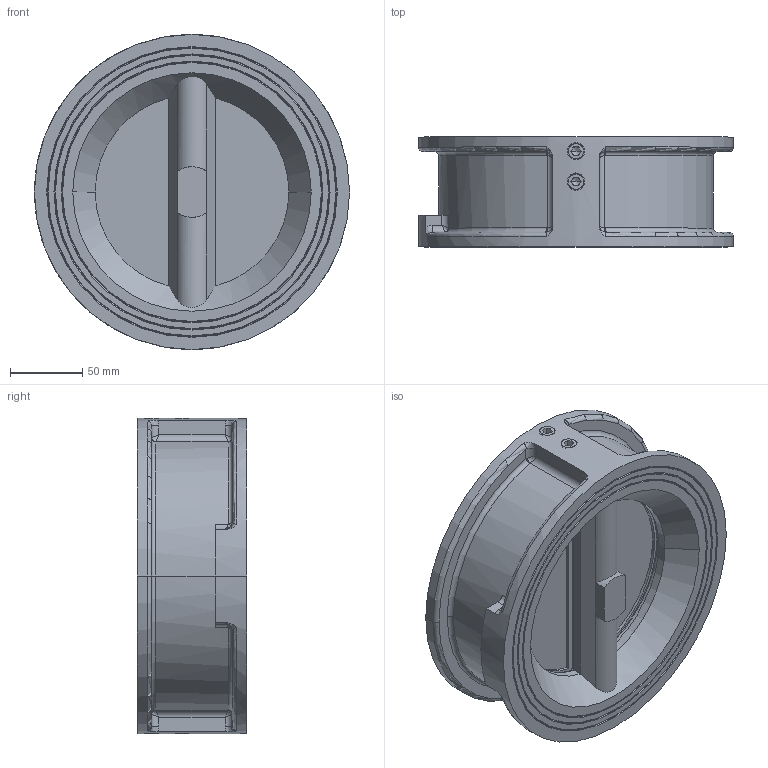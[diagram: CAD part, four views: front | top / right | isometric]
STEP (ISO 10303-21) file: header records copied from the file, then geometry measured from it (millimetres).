
FILE_DESCRIPTION (( 'STEP AP203' ), '1' );
FILE_NAME ('5306 DN150 ×°Åä.STEP', '2025-02-13T05:35:25', ( '' ), ( '' ), 'SwSTEP 2.0', 'SolidWorks 2018', '' );
FILE_SCHEMA (( 'CONFIG_CONTROL_DESIGN' ));
Length unit declared in the file: millimetre
Products named in the file (6): 5306 DN150 概极; 5306 DN150 概粣; GB╱T 77-2007[内六角平端紧定螺钉M12×12]_M12×12; 5306 DN150 概啣; 5306 DN150 境蝶; 5306 DN150 蚾饜
Assembly tree (10 placements, depth 2):
  5306 DN150 蚾饜
    5306 DN150 概极
    5306 DN150 境蝶
    5306 DN150 概啣  x2
    5306 DN150 概粣  x2
    GB╱T 77-2007[内六角平端紧定螺钉M12×12]_M12×12  x4
Bounding box: 218 x 76 x 218 mm (x, y, z)
Volume: 1119161.4 mm3; surface area: 255217.7 mm2
Topology: 10 solids, 10 shells, 370 faces, 895 edges, 543 vertices
Faces by surface type: plane 138, cylinder 124, cone 66, bspline 30, torus 12
Entity records: 10478 total; most frequent: CARTESIAN_POINT 3766, DIRECTION 1260, ORIENTED_EDGE 1242, EDGE_CURVE 621, AXIS2_PLACEMENT_3D 497, VERTEX_POINT 383, EDGE_LOOP 294, LINE 266
